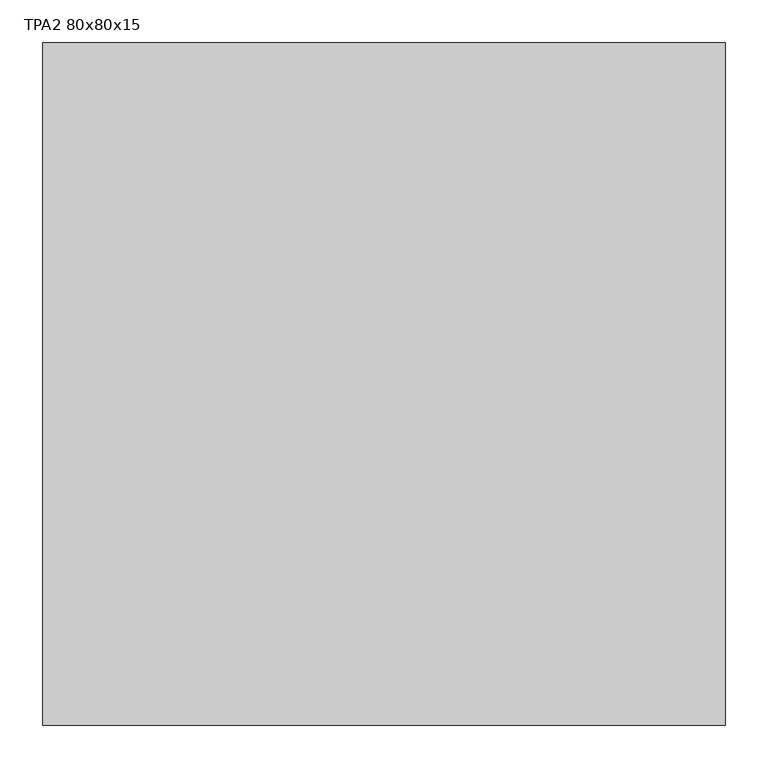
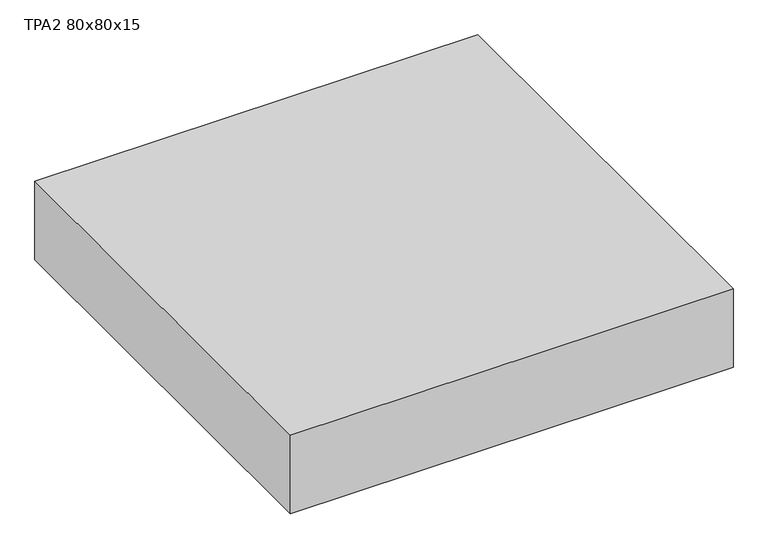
"""IFC4 building model written with IfcOpenShell, lengths in millimetres: proxy geometry, TABLERO ELECTRICO DE SUPERFICIE : TPA2 80x80x15."""

from ifc_helpers import new_model, si_unit, origin, origin_with_axes, place, context, project, spatial, polyline, outline, extrude, source, transform, mapped, element, save


def tpa2_80x80x15_b5537dd2(model_context):
    return source(origin(), model_context, "Body", "SweptSolid", [
        extrude(outline(polyline([(400.0, 0.0), (-400.0, 0.0), (-400.0, 800.0), (400.0, 800.0), (400.0, 0.0)])), origin_with_axes(), (0.0, 0.0, 1.0), 150.0),
    ])


if __name__ == "__main__":
    model = new_model("IFC4")
    model_context = context("Model", 3, world=origin())
    ifc_project = project(units=[si_unit("LENGTHUNIT", "METRE", prefix="MILLI")], contexts=[model_context])
    site = spatial("IfcSite", under=ifc_project)
    building = spatial("IfcBuilding", under=site)
    placement = place(None, origin())
    tpa2_80x80x15_shape = tpa2_80x80x15_b5537dd2(model_context)
    element("IfcBuildingElementProxy", 1, Name="TABLERO ELECTRICO DE SUPERFICIE : TPA2 80x80x15", ObjectType="TABLERO ELECTRICO DE SUPERFICIE : TPA2 80x80x15", at=placement, inside=building, context=model_context, shape_type="MappedRepresentation", body=[
        mapped(tpa2_80x80x15_shape, transform((0.0, 0.0, 0.0), x_axis=(1.0, 0.0, 0.0), y_axis=(0.0, 1.0, 0.0), z_axis=(0.0, 0.0, 1.0))),
    ])
    save(model, "model.ifc")
